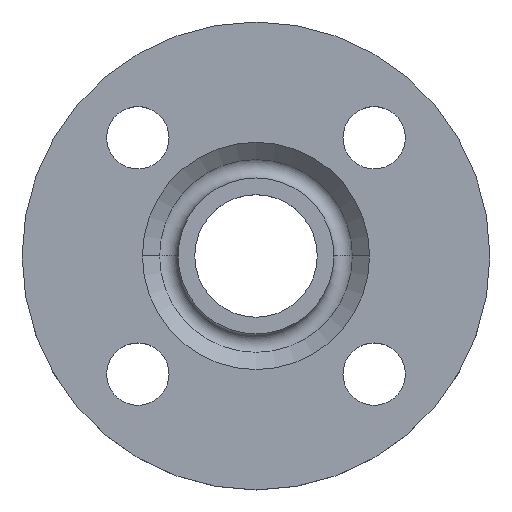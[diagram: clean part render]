
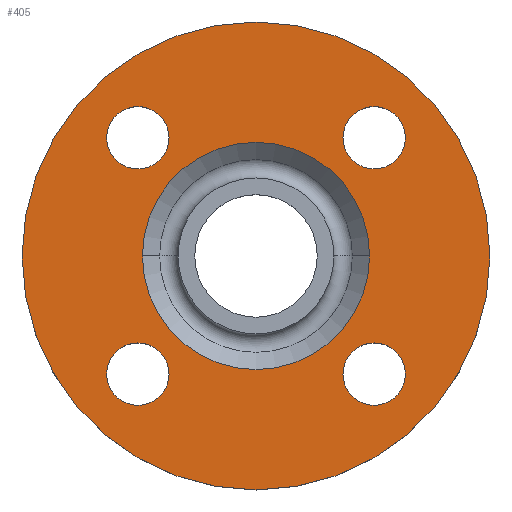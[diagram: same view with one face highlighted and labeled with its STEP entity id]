
A CAD part, top view. The second image highlights one B-rep face of the part: STEP entity #405.
In plain terms, the highlighted planar face has unit normal (0, 0, 1).
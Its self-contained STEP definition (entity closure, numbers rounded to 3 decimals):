
#9 = DIRECTION ( 'NONE',  ( -1., 0., 0. ) ) ;
#10 = DIRECTION ( 'NONE',  ( 0., 0., -1. ) ) ;
#11 = CARTESIAN_POINT ( 'NONE',  ( 0., 0., -2. ) ) ;
#15 = AXIS2_PLACEMENT_3D ( 'NONE', #528, #529, #530 ) ;
#35 = DIRECTION ( 'NONE',  ( 1., 0., 0. ) ) ;
#36 = DIRECTION ( 'NONE',  ( 0., 0., -1. ) ) ;
#37 = CARTESIAN_POINT ( 'NONE',  ( 26.517, -26.517, -2. ) ) ;
#49 = EDGE_CURVE ( 'NONE', #427, #509, #635, .T. ) ;
#51 = FACE_BOUND ( 'NONE', #443, .T. ) ;
#55 = FACE_BOUND ( 'NONE', #512, .T. ) ;
#56 = AXIS2_PLACEMENT_3D ( 'NONE', #75, #72, #71 ) ;
#57 = FACE_BOUND ( 'NONE', #464, .T. ) ;
#59 = FACE_BOUND ( 'NONE', #498, .T. ) ;
#61 = AXIS2_PLACEMENT_3D ( 'NONE', #11, #10, #9 ) ;
#65 = DIRECTION ( 'NONE',  ( -1., 0., 0. ) ) ;
#68 = DIRECTION ( 'NONE',  ( 0., 0., -1. ) ) ;
#70 = CARTESIAN_POINT ( 'NONE',  ( 0., 0., -2. ) ) ;
#71 = DIRECTION ( 'NONE',  ( -1., 0., 0. ) ) ;
#72 = DIRECTION ( 'NONE',  ( 0., 0., -1. ) ) ;
#75 = CARTESIAN_POINT ( 'NONE',  ( 0., 0., -2. ) ) ;
#76 = DIRECTION ( 'NONE',  ( 1., 0., 0. ) ) ;
#80 = DIRECTION ( 'NONE',  ( 0., 0., -1. ) ) ;
#87 = CIRCLE ( 'NONE', #654, 7. ) ;
#92 = AXIS2_PLACEMENT_3D ( 'NONE', #142, #140, #139 ) ;
#115 = CARTESIAN_POINT ( 'NONE',  ( 19.517, -26.517, -2. ) ) ;
#125 = AXIS2_PLACEMENT_3D ( 'NONE', #70, #68, #65 ) ;
#132 = CARTESIAN_POINT ( 'NONE',  ( -52.5, 0., -2. ) ) ;
#139 = DIRECTION ( 'NONE',  ( 1., 0., 0. ) ) ;
#140 = DIRECTION ( 'NONE',  ( 0., 0., -1. ) ) ;
#142 = CARTESIAN_POINT ( 'NONE',  ( 26.517, -26.517, -2. ) ) ;
#154 = EDGE_CURVE ( 'NONE', #437, #448, #87, .T. ) ;
#177 = AXIS2_PLACEMENT_3D ( 'NONE', #257, #254, #253 ) ;
#186 = AXIS2_PLACEMENT_3D ( 'NONE', #568, #569, #571 ) ;
#192 = CIRCLE ( 'NONE', #177, 7. ) ;
#210 = EDGE_CURVE ( 'NONE', #462, #436, #534, .T. ) ;
#247 = DIRECTION ( 'NONE',  ( 1., 0., 0. ) ) ;
#249 = DIRECTION ( 'NONE',  ( 0., 0., -1. ) ) ;
#252 = CARTESIAN_POINT ( 'NONE',  ( 26.517, 26.517, -2. ) ) ;
#253 = DIRECTION ( 'NONE',  ( 1., 0., 0. ) ) ;
#254 = DIRECTION ( 'NONE',  ( 0., 0., -1. ) ) ;
#257 = CARTESIAN_POINT ( 'NONE',  ( -26.517, 26.517, -2. ) ) ;
#260 = VERTEX_POINT ( 'NONE', #602 ) ;
#274 = ORIENTED_EDGE ( 'NONE', *, *, #618, .T. ) ;
#275 = ORIENTED_EDGE ( 'NONE', *, *, #503, .T. ) ;
#276 = ORIENTED_EDGE ( 'NONE', *, *, #392, .T. ) ;
#279 = CARTESIAN_POINT ( 'NONE',  ( -33.517, 26.517, -2. ) ) ;
#281 = ORIENTED_EDGE ( 'NONE', *, *, #154, .T. ) ;
#283 = ORIENTED_EDGE ( 'NONE', *, *, #473, .T. ) ;
#284 = ORIENTED_EDGE ( 'NONE', *, *, #210, .T. ) ;
#285 = ORIENTED_EDGE ( 'NONE', *, *, #477, .T. ) ;
#288 = AXIS2_PLACEMENT_3D ( 'NONE', #37, #36, #35 ) ;
#292 = ORIENTED_EDGE ( 'NONE', *, *, #420, .T. ) ;
#294 = ORIENTED_EDGE ( 'NONE', *, *, #684, .T. ) ;
#296 = CARTESIAN_POINT ( 'NONE',  ( -19.517, -26.517, -2. ) ) ;
#297 = ORIENTED_EDGE ( 'NONE', *, *, #594, .T. ) ;
#298 = ORIENTED_EDGE ( 'NONE', *, *, #49, .F. ) ;
#300 = ORIENTED_EDGE ( 'NONE', *, *, #587, .F. ) ;
#308 = CARTESIAN_POINT ( 'NONE',  ( 33.517, -26.517, -2. ) ) ;
#309 = CARTESIAN_POINT ( 'NONE',  ( 25.5, 0., -2. ) ) ;
#311 = CARTESIAN_POINT ( 'NONE',  ( -33.517, -26.517, -2. ) ) ;
#312 = CARTESIAN_POINT ( 'NONE',  ( -19.517, 26.517, -2. ) ) ;
#317 = VERTEX_POINT ( 'NONE', #643 ) ;
#320 = AXIS2_PLACEMENT_3D ( 'NONE', #623, #593, #595 ) ;
#337 = CARTESIAN_POINT ( 'NONE',  ( 52.5, 0., -2. ) ) ;
#343 = DIRECTION ( 'NONE',  ( 1., 0., 0. ) ) ;
#352 = AXIS2_PLACEMENT_3D ( 'NONE', #252, #249, #247 ) ;
#361 = VERTEX_POINT ( 'NONE', #629 ) ;
#388 = CIRCLE ( 'NONE', #288, 7. ) ;
#392 = EDGE_CURVE ( 'NONE', #448, #437, #504, .T. ) ;
#405 = ADVANCED_FACE ( 'NONE', ( #59, #57, #55, #51, #596, #591 ), #597, .T. ) ;
#406 = CIRCLE ( 'NONE', #125, 25.5 ) ;
#420 = EDGE_CURVE ( 'NONE', #361, #317, #660, .T. ) ;
#427 = VERTEX_POINT ( 'NONE', #337 ) ;
#436 = VERTEX_POINT ( 'NONE', #312 ) ;
#437 = VERTEX_POINT ( 'NONE', #311 ) ;
#440 = VERTEX_POINT ( 'NONE', #309 ) ;
#443 = EDGE_LOOP ( 'NONE', ( #285, #292 ) ) ;
#444 = VERTEX_POINT ( 'NONE', #308 ) ;
#448 = VERTEX_POINT ( 'NONE', #296 ) ;
#450 = EDGE_LOOP ( 'NONE', ( #298, #300 ) ) ;
#459 = AXIS2_PLACEMENT_3D ( 'NONE', #652, #592, #343 ) ;
#462 = VERTEX_POINT ( 'NONE', #279 ) ;
#464 = EDGE_LOOP ( 'NONE', ( #276, #281 ) ) ;
#473 = EDGE_CURVE ( 'NONE', #436, #462, #192, .T. ) ;
#477 = EDGE_CURVE ( 'NONE', #317, #361, #667, .T. ) ;
#479 = CIRCLE ( 'NONE', #92, 7. ) ;
#498 = EDGE_LOOP ( 'NONE', ( #274, #275 ) ) ;
#499 = EDGE_LOOP ( 'NONE', ( #294, #297 ) ) ;
#503 = EDGE_CURVE ( 'NONE', #511, #444, #479, .T. ) ;
#504 = CIRCLE ( 'NONE', #683, 7. ) ;
#509 = VERTEX_POINT ( 'NONE', #132 ) ;
#511 = VERTEX_POINT ( 'NONE', #115 ) ;
#512 = EDGE_LOOP ( 'NONE', ( #283, #284 ) ) ;
#528 = CARTESIAN_POINT ( 'NONE',  ( 0., 0., -2. ) ) ;
#529 = DIRECTION ( 'NONE',  ( 0., 0., -1. ) ) ;
#530 = DIRECTION ( 'NONE',  ( -1., 0., 0. ) ) ;
#534 = CIRCLE ( 'NONE', #186, 7. ) ;
#548 = CARTESIAN_POINT ( 'NONE',  ( -26.517, -26.517, -2. ) ) ;
#549 = DIRECTION ( 'NONE',  ( 0., 0., -1. ) ) ;
#552 = DIRECTION ( 'NONE',  ( 1., 0., 0. ) ) ;
#568 = CARTESIAN_POINT ( 'NONE',  ( -26.517, 26.517, -2. ) ) ;
#569 = DIRECTION ( 'NONE',  ( 0., 0., -1. ) ) ;
#571 = DIRECTION ( 'NONE',  ( 1., 0., 0. ) ) ;
#587 = EDGE_CURVE ( 'NONE', #509, #427, #668, .T. ) ;
#591 = FACE_OUTER_BOUND ( 'NONE', #450, .T. ) ;
#592 = DIRECTION ( 'NONE',  ( 0., 0., -1. ) ) ;
#593 = DIRECTION ( 'NONE',  ( 0., 0., 1. ) ) ;
#594 = EDGE_CURVE ( 'NONE', #260, #440, #406, .T. ) ;
#595 = DIRECTION ( 'NONE',  ( 1., 0., 0. ) ) ;
#596 = FACE_BOUND ( 'NONE', #499, .T. ) ;
#597 = PLANE ( 'NONE',  #320 ) ;
#602 = CARTESIAN_POINT ( 'NONE',  ( -25.5, 0., -2. ) ) ;
#609 = CARTESIAN_POINT ( 'NONE',  ( -26.517, -26.517, -2. ) ) ;
#618 = EDGE_CURVE ( 'NONE', #444, #511, #388, .T. ) ;
#623 = CARTESIAN_POINT ( 'NONE',  ( 52.5, 0., -2. ) ) ;
#629 = CARTESIAN_POINT ( 'NONE',  ( 19.517, 26.517, -2. ) ) ;
#635 = CIRCLE ( 'NONE', #15, 52.5 ) ;
#643 = CARTESIAN_POINT ( 'NONE',  ( 33.517, 26.517, -2. ) ) ;
#652 = CARTESIAN_POINT ( 'NONE',  ( 26.517, 26.517, -2. ) ) ;
#654 = AXIS2_PLACEMENT_3D ( 'NONE', #548, #549, #552 ) ;
#660 = CIRCLE ( 'NONE', #459, 7. ) ;
#667 = CIRCLE ( 'NONE', #352, 7. ) ;
#668 = CIRCLE ( 'NONE', #56, 52.5 ) ;
#683 = AXIS2_PLACEMENT_3D ( 'NONE', #609, #80, #76 ) ;
#684 = EDGE_CURVE ( 'NONE', #440, #260, #686, .T. ) ;
#686 = CIRCLE ( 'NONE', #61, 25.5 ) ;
